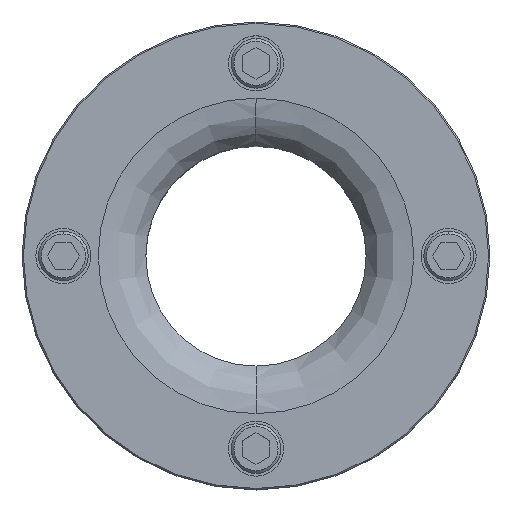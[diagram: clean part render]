
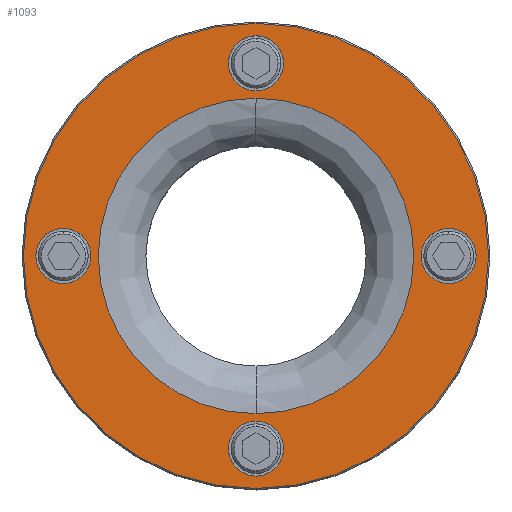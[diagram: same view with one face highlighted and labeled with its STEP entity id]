
A CAD part, top view. The second image highlights one B-rep face of the part: STEP entity #1093.
In plain terms, the highlighted planar face has unit normal (0, 0, 1).
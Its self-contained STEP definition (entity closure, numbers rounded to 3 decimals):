
#126=VERTEX_POINT(' ',#127);
#127=CARTESIAN_POINT('',(0.,-84.5,25.));
#132=VERTEX_POINT(' ',#133);
#133=CARTESIAN_POINT('',(0.,84.5,25.));
#174=VERTEX_POINT(' ',#175);
#175=CARTESIAN_POINT('',(0.,-57.321,25.));
#176=VERTEX_POINT(' ',#177);
#177=CARTESIAN_POINT('',(0.,57.321,25.));
#178=VERTEX_POINT(' ',#179);
#179=CARTESIAN_POINT('',(-70.,-10.,25.));
#180=VERTEX_POINT(' ',#181);
#181=CARTESIAN_POINT('',(-70.,10.,25.));
#182=VERTEX_POINT(' ',#183);
#183=CARTESIAN_POINT('',(0.,60.,25.));
#184=VERTEX_POINT(' ',#185);
#185=CARTESIAN_POINT('',(0.,80.,25.));
#186=VERTEX_POINT(' ',#187);
#187=CARTESIAN_POINT('',(0.,-80.,25.));
#188=VERTEX_POINT(' ',#189);
#189=CARTESIAN_POINT('',(0.,-60.,25.));
#190=VERTEX_POINT(' ',#191);
#191=CARTESIAN_POINT('',(70.,-10.,25.));
#192=VERTEX_POINT(' ',#193);
#193=CARTESIAN_POINT('',(70.,10.,25.));
#258=CIRCLE('',#259,84.5);
#259=AXIS2_PLACEMENT_3D('',#260,#261,#262);
#260=CARTESIAN_POINT('',(0.,0.,25.));
#261=DIRECTION('',(0.,0.,-1.));
#262=DIRECTION('',(-1.,0.,0.));
#263=EDGE_CURVE(' ',#132,#126,#258,.T.);
#264=CIRCLE('',#265,84.5);
#265=AXIS2_PLACEMENT_3D('',#266,#267,#268);
#266=CARTESIAN_POINT('',(0.,0.,25.));
#267=DIRECTION('',(0.,0.,-1.));
#268=DIRECTION('',(1.,0.,0.));
#269=EDGE_CURVE(' ',#126,#132,#264,.T.);
#488=CIRCLE('',#489,57.321);
#489=AXIS2_PLACEMENT_3D('',#490,#491,#492);
#490=CARTESIAN_POINT('',(0.,0.,25.));
#491=DIRECTION('',(0.,0.,-1.));
#492=DIRECTION('',(-1.,0.,0.));
#493=EDGE_CURVE(' ',#176,#174,#488,.T.);
#500=CIRCLE('',#501,57.321);
#501=AXIS2_PLACEMENT_3D('',#502,#503,#504);
#502=CARTESIAN_POINT('',(0.,0.,25.));
#503=DIRECTION('',(0.,0.,-1.));
#504=DIRECTION('',(1.,0.,0.));
#505=EDGE_CURVE(' ',#174,#176,#500,.T.);
#506=CIRCLE('',#507,10.);
#507=AXIS2_PLACEMENT_3D('',#508,#509,#510);
#508=CARTESIAN_POINT('',(-70.,0.,25.));
#509=DIRECTION('',(0.,0.,-1.));
#510=DIRECTION('',(1.,0.,0.));
#511=EDGE_CURVE(' ',#180,#178,#506,.F.);
#512=CIRCLE('',#513,10.);
#513=AXIS2_PLACEMENT_3D('',#514,#515,#516);
#514=CARTESIAN_POINT('',(-70.,0.,25.));
#515=DIRECTION('',(0.,0.,-1.));
#516=DIRECTION('',(-1.,0.,0.));
#517=EDGE_CURVE(' ',#178,#180,#512,.F.);
#518=CIRCLE('',#519,10.);
#519=AXIS2_PLACEMENT_3D('',#520,#521,#522);
#520=CARTESIAN_POINT('',(0.,70.,25.));
#521=DIRECTION('',(0.,0.,-1.));
#522=DIRECTION('',(1.,0.,0.));
#523=EDGE_CURVE(' ',#184,#182,#518,.F.);
#524=CIRCLE('',#525,10.);
#525=AXIS2_PLACEMENT_3D('',#526,#527,#528);
#526=CARTESIAN_POINT('',(0.,70.,25.));
#527=DIRECTION('',(0.,0.,-1.));
#528=DIRECTION('',(-1.,0.,0.));
#529=EDGE_CURVE(' ',#182,#184,#524,.F.);
#530=CIRCLE('',#531,10.);
#531=AXIS2_PLACEMENT_3D('',#532,#533,#534);
#532=CARTESIAN_POINT('',(0.,-70.,25.));
#533=DIRECTION('',(0.,0.,-1.));
#534=DIRECTION('',(1.,0.,0.));
#535=EDGE_CURVE(' ',#188,#186,#530,.F.);
#536=CIRCLE('',#537,10.);
#537=AXIS2_PLACEMENT_3D('',#538,#539,#540);
#538=CARTESIAN_POINT('',(0.,-70.,25.));
#539=DIRECTION('',(0.,0.,-1.));
#540=DIRECTION('',(-1.,0.,0.));
#541=EDGE_CURVE(' ',#186,#188,#536,.F.);
#542=CIRCLE('',#543,10.);
#543=AXIS2_PLACEMENT_3D('',#544,#545,#546);
#544=CARTESIAN_POINT('',(70.,0.,25.));
#545=DIRECTION('',(0.,0.,-1.));
#546=DIRECTION('',(1.,0.,0.));
#547=EDGE_CURVE(' ',#192,#190,#542,.F.);
#548=CIRCLE('',#549,10.);
#549=AXIS2_PLACEMENT_3D('',#550,#551,#552);
#550=CARTESIAN_POINT('',(70.,0.,25.));
#551=DIRECTION('',(0.,0.,-1.));
#552=DIRECTION('',(-1.,0.,0.));
#553=EDGE_CURVE(' ',#190,#192,#548,.F.);
#1064=ORIENTED_EDGE('',*,*,#263,.F.);
#1065=ORIENTED_EDGE('',*,*,#269,.F.);
#1066=EDGE_LOOP('',(#1064,#1065));
#1067=FACE_OUTER_BOUND('',#1066,.T.);
#1068=ORIENTED_EDGE('',*,*,#511,.F.);
#1069=ORIENTED_EDGE('',*,*,#517,.F.);
#1070=EDGE_LOOP('',(#1068,#1069));
#1071=FACE_BOUND('',#1070,.T.);
#1072=ORIENTED_EDGE('',*,*,#523,.F.);
#1073=ORIENTED_EDGE('',*,*,#529,.F.);
#1074=EDGE_LOOP('',(#1072,#1073));
#1075=FACE_BOUND('',#1074,.T.);
#1076=ORIENTED_EDGE('',*,*,#535,.F.);
#1077=ORIENTED_EDGE('',*,*,#541,.F.);
#1078=EDGE_LOOP('',(#1076,#1077));
#1079=FACE_BOUND('',#1078,.T.);
#1080=ORIENTED_EDGE('',*,*,#547,.F.);
#1081=ORIENTED_EDGE('',*,*,#553,.F.);
#1082=EDGE_LOOP('',(#1080,#1081));
#1083=FACE_BOUND('',#1082,.T.);
#1084=ORIENTED_EDGE('',*,*,#505,.T.);
#1085=ORIENTED_EDGE('',*,*,#493,.T.);
#1086=EDGE_LOOP('',(#1084,#1085));
#1087=FACE_BOUND('',#1086,.T.);
#1088=PLANE('',#1089);
#1089=AXIS2_PLACEMENT_3D('',#1090,#1091,#1092);
#1090=CARTESIAN_POINT('',(0.,0.,25.));
#1091=DIRECTION('',(0.,0.,1.));
#1092=DIRECTION('',(-1.,0.,0.));
#1093=ADVANCED_FACE('',(#1067,#1071,#1075,#1079,#1083,#1087),#1088,.T.);
